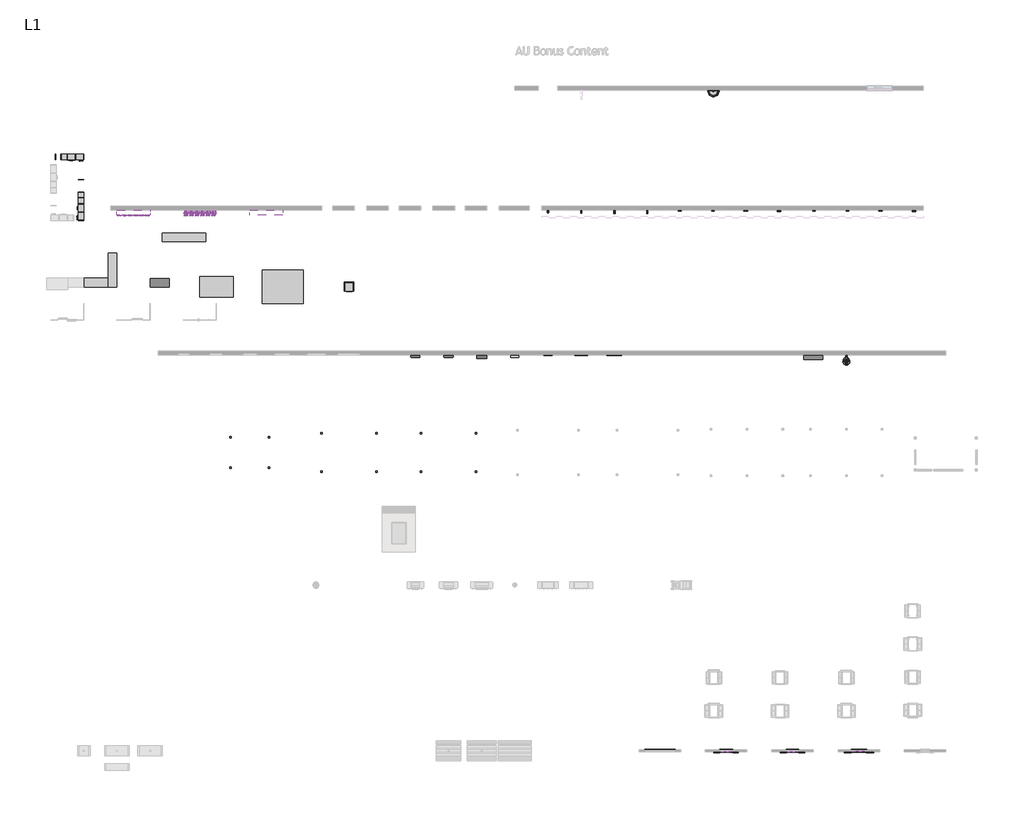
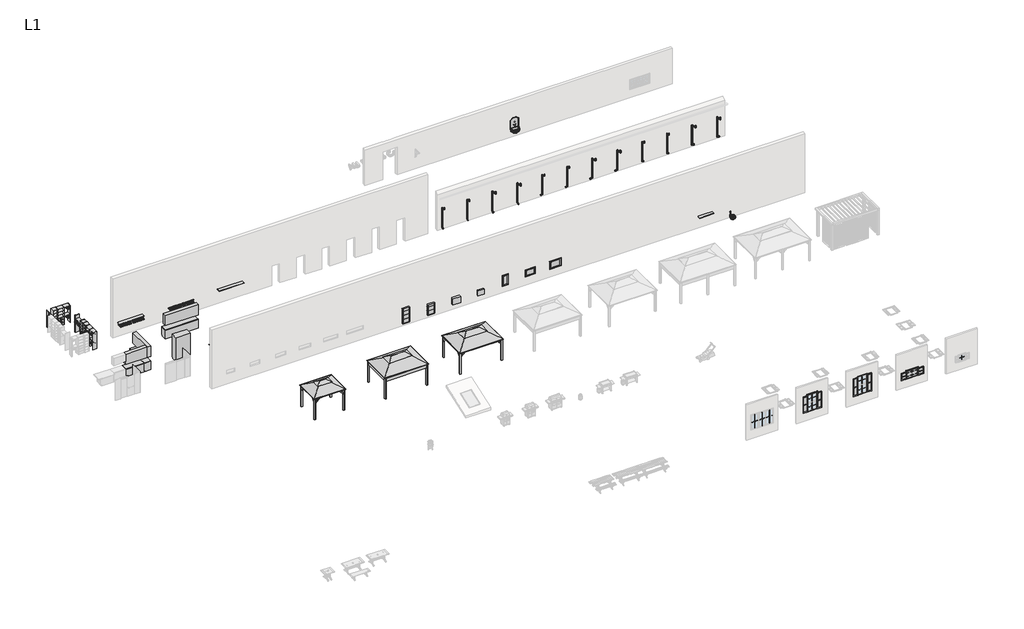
# One storey, part 2 of 3: 37 proxies, 16 furniture elements, 1 flow terminal.
"""IFC4 building model written with IfcOpenShell, lengths in millimetres."""

from ifc_helpers import new_model, si_unit, origin, place, context, project, spatial, faceted_brep, transform, mapped, element, save
from components import generic_models_d0a8d090, generic_models_df632028, generic_models_7251365c, proxy_2_bay_e269944b, proxy_3_bay_3be3d3e6, proxy_a602e200, proxy_0893bcb6, proxy_def5cd80, proxy_c430dda0, proxy_e1b6ae37, proxy_ede8fee1, proxy_e2340bb6, proxy_80003a3c, proxy_fda262e5, proxy_44de5c8c, proxy_8c5c01b0, proxy_bde930bf, large_9efaeace, medium_2074314f, muntin_pattern_2x1_muntin_pattern_2x2_a6c43cb1, muntin_pattern_2x1_muntin_pattern_2x2_6849e3ed, muntin_pattern_2x1_muntin_pattern_2x2_5a77f14e, muntin_pattern_2x1_muntin_pattern_2x2_0f8a5302, muntin_pattern_2x1_muntin_pattern_2x2_4837e2eb, muntin_pattern_2x1_muntin_pattern_2x2_8b241174, muntin_pattern_2x1_muntin_pattern_2x2_10bdea61, muntin_pattern_2x1_muntin_pattern_2x2_7469a3c2, muntin_pattern_2x1_muntin_pattern_2x2_3ec9c93b, shutters_trim_window_exterior_brick_mould_colonial_standard_93ad9e11, standard_04e2984d, standard_8dc5469e, trim_window_interior_flat1_picture_frame_fb6b3cf3, trim_window_interior_flat1_picture_frame_eabbbb4e, trim_window_interior_flat1_picture_frame_5102ef56, trim_window_interior_flat1_picture_frame_47f21718, wall_fountain_wall_fountain_90bc1599, flow_terminal_8df085c3, furniture_c30f7608, furniture_685e9397, furniture_1ed8da18, area_rug_5_x_8_81283b17, area_rug_8_x_10_95d52e00, closet_shelf_and_pole_rod_only_25dd0cd0, closet_shelf_and_pole_rod_only_98f2f419, closet_shelf_and_pole_rod_and_shelf_79c3418e, closet_shelf_and_pole_shelf_only_ceb32252, closet_system_one_to_five_bays_closet_system_one_to_five_99dbb15d, closet_system_one_to_five_bays_closet_system_one_to_five_d383a4f7, closet_system_one_to_five_bays_closet_system_one_to_five_3dc5d13a, closet_system_one_to_five_bays_closet_system_one_to_five_bbc15d21, furniture_e69bb2be, wall_frame_6613b714, wall_frame_b3d80cf9, wall_frame_70131e61

model = new_model("IFC4")

# Units and contexts
model_context = context("Model", 3, world=origin())
ifc_project = project(units=[si_unit("LENGTHUNIT", "METRE", prefix="MILLI")], contexts=[model_context])

# Site, building, storey
site = spatial("IfcSite", under=ifc_project)
building = spatial("IfcBuilding", under=site)
storey = spatial("IfcBuildingStorey", under=building, Name="L1", Elevation=0.0)

# Proxies
placement = place(None, origin())
generic_models_shape = generic_models_d0a8d090(model_context)
element("IfcBuildingElementProxy", 1, Name="Gazebo : 14'-0\" x 10'-0\" (Braces)", ObjectType="Gazebo : 14'-0\" x 10'-0\" (Braces)", at=placement, inside=storey, context=model_context, shape_type="MappedRepresentation", body=[
    mapped(generic_models_shape, transform((-3296.6137503, -3562.6647312, 0.0), x_axis=(1.0, 0.0, 0.0), y_axis=(0.0, 1.0, 0.0), z_axis=(0.0, 0.0, 1.0))),
])
generic_models_2_shape = generic_models_df632028(model_context)
element("IfcBuildingElementProxy", 2, Name="Gazebo : 10'-0\" x 8'-0\" (Braces)", ObjectType="Gazebo : 10'-0\" x 8'-0\" (Braces)", at=placement, inside=storey, context=model_context, shape_type="MappedRepresentation", body=[
    mapped(generic_models_2_shape, transform((-17927.0137503, -3562.6647312, 0.0), x_axis=(1.0, 0.0, 0.0), y_axis=(0.0, 1.0, 0.0), z_axis=(0.0, 0.0, 1.0))),
])
generic_models_3_shape = generic_models_7251365c(model_context)
element("IfcBuildingElementProxy", 3, Name="Gazebo : 14'-0\" x 10'-0\" (Arches)", ObjectType="Gazebo : 14'-0\" x 10'-0\" (Arches)", at=placement, inside=storey, context=model_context, shape_type="MappedRepresentation", body=[
    mapped(generic_models_3_shape, transform((-10611.8137503, -3562.6647312, 0.0), x_axis=(1.0, 0.0, 0.0), y_axis=(0.0, 1.0, 0.0), z_axis=(0.0, 0.0, 1.0))),
])
proxy_2_bay_shape = proxy_2_bay_e269944b(model_context)
element("IfcBuildingElementProxy", 4, Name="Whole House Battery : 2 Bay", ObjectType="Whole House Battery : 2 Bay", at=placement, inside=storey, context=model_context, shape_type="MappedRepresentation", body=[
    mapped(proxy_2_bay_shape, transform((-3296.6137503, 3515.0452688, 304.8), x_axis=(1.0, 0.0, 0.0), y_axis=(0.0, 1.0, 0.0), z_axis=(0.0, 0.0, 1.0))),
])
proxy_3_bay_shape = proxy_3_bay_3be3d3e6(model_context)
element("IfcBuildingElementProxy", 5, Name="Whole House Battery : 3 Bay", ObjectType="Whole House Battery : 3 Bay", at=placement, inside=storey, context=model_context, shape_type="MappedRepresentation", body=[
    mapped(proxy_3_bay_shape, transform((-5735.0137503, 3515.0452688, 304.8), x_axis=(1.0, 0.0, 0.0), y_axis=(0.0, 1.0, 0.0), z_axis=(0.0, 0.0, 1.0))),
])
proxy_shape = proxy_a602e200(model_context)
element("IfcBuildingElementProxy", 6, Name="Downspout - Left Discharge : 3\" x 2\" A", ObjectType="Downspout - Left Discharge : 3\" x 2\" A", at=placement, inside=storey, context=model_context, shape_type="MappedRepresentation", body=[
    mapped(proxy_shape, transform((13772.1862497, 14434.1781195, 12.267258), x_axis=(-1.0, 0.0, 0.0), y_axis=(0.0, -1.0, 0.0), z_axis=(0.0, 0.0, 1.0))),
])
proxy_2_shape = proxy_0893bcb6(model_context)
element("IfcBuildingElementProxy", 7, Name="Downspout - Left Discharge : 3\" x 2\" B", ObjectType="Downspout - Left Discharge : 3\" x 2\" B", at=placement, inside=storey, context=model_context, shape_type="MappedRepresentation", body=[
    mapped(proxy_2_shape, transform((16210.5862497, 14434.1781195, -12.1794905), x_axis=(-1.0, 0.0, 0.0), y_axis=(0.0, -1.0, 0.0), z_axis=(0.0, 0.0, 1.0))),
])
proxy_3_shape = proxy_def5cd80(model_context)
element("IfcBuildingElementProxy", 8, Name="Downspout - Left Discharge : 4\" x 3\" A", ObjectType="Downspout - Left Discharge : 4\" x 3\" A", at=placement, inside=storey, context=model_context, shape_type="MappedRepresentation", body=[
    mapped(proxy_3_shape, transform((18648.9862497, 14434.1781195, 12.3550255), x_axis=(-1.0, 0.0, 0.0), y_axis=(0.0, -1.0, 0.0), z_axis=(0.0, 0.0, 1.0))),
])
proxy_4_shape = proxy_c430dda0(model_context)
element("IfcBuildingElementProxy", 9, Name="Downspout - Left Discharge : 4\" x 3\" B", ObjectType="Downspout - Left Discharge : 4\" x 3\" B", at=placement, inside=storey, context=model_context, shape_type="MappedRepresentation", body=[
    mapped(proxy_4_shape, transform((21087.3862497, 14434.1781195, -12.1794905), x_axis=(-1.0, 0.0, 0.0), y_axis=(0.0, -1.0, 0.0), z_axis=(0.0, 0.0, 1.0))),
])
proxy_5_shape = proxy_e1b6ae37(model_context)
element("IfcBuildingElementProxy", 10, Name="Downspout - Right Discharge : 3\" x 2\" A", ObjectType="Downspout - Right Discharge : 3\" x 2\" A", at=placement, inside=storey, context=model_context, shape_type="MappedRepresentation", body=[
    mapped(proxy_5_shape, transform((23525.7862497, 14434.1781195, 12.267258), x_axis=(-1.0, 0.0, 0.0), y_axis=(0.0, -1.0, 0.0), z_axis=(0.0, 0.0, 1.0))),
])
proxy_6_shape = proxy_ede8fee1(model_context)
element("IfcBuildingElementProxy", 11, Name="Downspout - Right Discharge : 3\" x 2\" B", ObjectType="Downspout - Right Discharge : 3\" x 2\" B", at=placement, inside=storey, context=model_context, shape_type="MappedRepresentation", body=[
    mapped(proxy_6_shape, transform((25964.1862497, 14434.1781195, -12.1794905), x_axis=(-1.0, 0.0, 0.0), y_axis=(0.0, -1.0, 0.0), z_axis=(0.0, 0.0, 1.0))),
])
proxy_7_shape = proxy_e2340bb6(model_context)
element("IfcBuildingElementProxy", 12, Name="Downspout - Right Discharge : 4\" x 3\" A", ObjectType="Downspout - Right Discharge : 4\" x 3\" A", at=placement, inside=storey, context=model_context, shape_type="MappedRepresentation", body=[
    mapped(proxy_7_shape, transform((28402.5862497, 14434.1781195, 12.3550255), x_axis=(-1.0, 0.0, 0.0), y_axis=(0.0, -1.0, 0.0), z_axis=(0.0, 0.0, 1.0))),
])
proxy_8_shape = proxy_80003a3c(model_context)
element("IfcBuildingElementProxy", 13, Name="Downspout - Right Discharge : 4\" x 3\" B", ObjectType="Downspout - Right Discharge : 4\" x 3\" B", at=placement, inside=storey, context=model_context, shape_type="MappedRepresentation", body=[
    mapped(proxy_8_shape, transform((30840.9862497, 14434.1781195, -12.1794905), x_axis=(-1.0, 0.0, 0.0), y_axis=(0.0, -1.0, 0.0), z_axis=(0.0, 0.0, 1.0))),
])
proxy_9_shape = proxy_fda262e5(model_context)
element("IfcBuildingElementProxy", 14, Name="Downspout - Straight Discharge : 3\" x 2\" A", ObjectType="Downspout - Straight Discharge : 3\" x 2\" A", at=placement, inside=storey, context=model_context, shape_type="MappedRepresentation", body=[
    mapped(proxy_9_shape, transform((4018.5862497, 14434.1781195, 0.0), x_axis=(-1.0, 0.0, 0.0), y_axis=(0.0, -1.0, 0.0), z_axis=(0.0, 0.0, 1.0))),
])
proxy_10_shape = proxy_44de5c8c(model_context)
element("IfcBuildingElementProxy", 15, Name="Downspout - Straight Discharge : 3\" x 2\" B", ObjectType="Downspout - Straight Discharge : 3\" x 2\" B", at=placement, inside=storey, context=model_context, shape_type="MappedRepresentation", body=[
    mapped(proxy_10_shape, transform((6456.9862497, 14434.1781195, 0.0877675), x_axis=(-1.0, 0.0, 0.0), y_axis=(0.0, -1.0, 0.0), z_axis=(0.0, 0.0, 1.0))),
])
proxy_11_shape = proxy_8c5c01b0(model_context)
element("IfcBuildingElementProxy", 16, Name="Downspout - Straight Discharge : 4\" x 3\" A", ObjectType="Downspout - Straight Discharge : 4\" x 3\" A", at=placement, inside=storey, context=model_context, shape_type="MappedRepresentation", body=[
    mapped(proxy_11_shape, transform((8895.3862497, 14434.1781195, 0.0877675), x_axis=(-1.0, 0.0, 0.0), y_axis=(0.0, -1.0, 0.0), z_axis=(0.0, 0.0, 1.0))),
])
proxy_12_shape = proxy_bde930bf(model_context)
element("IfcBuildingElementProxy", 17, Name="Downspout - Straight Discharge : 4\" x 3\" B", ObjectType="Downspout - Straight Discharge : 4\" x 3\" B", at=placement, inside=storey, context=model_context, shape_type="MappedRepresentation", body=[
    mapped(proxy_12_shape, transform((11333.7862497, 14434.1781195, 0.0877675), x_axis=(-1.0, 0.0, 0.0), y_axis=(0.0, -1.0, 0.0), z_axis=(0.0, 0.0, 1.0))),
])
large_shape = large_9efaeace(model_context)
element("IfcBuildingElementProxy", 18, Name="Power Inverter : Large", ObjectType="Power Inverter : Large", at=placement, inside=storey, context=model_context, shape_type="MappedRepresentation", body=[
    mapped(large_shape, transform((-858.2137503, 3473.1352688, 609.6), x_axis=(1.0, 0.0, 0.0), y_axis=(0.0, 1.0, 0.0), z_axis=(0.0, 0.0, 1.0))),
])
medium_shape = medium_2074314f(model_context)
element("IfcBuildingElementProxy", 19, Name="Power Inverter : Medium", ObjectType="Power Inverter : Medium", at=placement, inside=storey, context=model_context, shape_type="MappedRepresentation", body=[
    mapped(medium_shape, transform((1580.1862497, 3523.9352688, 609.6), x_axis=(1.0, 0.0, 0.0), y_axis=(0.0, 1.0, 0.0), z_axis=(0.0, 0.0, 1.0))),
])
muntin_pattern_2x1_muntin_pattern_2x2_shape = muntin_pattern_2x1_muntin_pattern_2x2_a6c43cb1(model_context)
element("IfcBuildingElementProxy", 20, Name="Muntin Pattern_2x1 : Muntin Pattern_2x2", ObjectType="Muntin Pattern_2x1 : Muntin Pattern_2x2", at=placement, inside=storey, context=model_context, shape_type="MappedRepresentation", body=[
    mapped(muntin_pattern_2x1_muntin_pattern_2x2_shape, transform((12965.7362497, -25562.2397312, 984.25), x_axis=(-1.0, 0.0, 0.0), y_axis=(0.0, -1.0, 0.0), z_axis=(0.0, 0.0, 1.0))),
])
element("IfcBuildingElementProxy", 21, Name="Muntin Pattern_2x1 : Muntin Pattern_2x2", ObjectType="Muntin Pattern_2x1 : Muntin Pattern_2x2", at=placement, inside=storey, context=model_context, shape_type="MappedRepresentation", body=[
    mapped(muntin_pattern_2x1_muntin_pattern_2x2_shape, transform((12248.1862497, -25562.2397312, 984.25), x_axis=(-1.0, 0.0, 0.0), y_axis=(0.0, -1.0, 0.0), z_axis=(0.0, 0.0, 1.0))),
])
muntin_pattern_2x1_muntin_pattern_2x2_2_shape = muntin_pattern_2x1_muntin_pattern_2x2_6849e3ed(model_context)
element("IfcBuildingElementProxy", 22, Name="Muntin Pattern_2x1 : Muntin Pattern_2x2", ObjectType="Muntin Pattern_2x1 : Muntin Pattern_2x2", at=placement, inside=storey, context=model_context, shape_type="MappedRepresentation", body=[
    mapped(muntin_pattern_2x1_muntin_pattern_2x2_2_shape, transform((11530.6362497, -25562.2397312, 984.25), x_axis=(1.0, 0.0, 0.0), y_axis=(0.0, 1.0, 0.0), z_axis=(0.0, 0.0, 1.0))),
])
muntin_pattern_2x1_muntin_pattern_2x2_3_shape = muntin_pattern_2x1_muntin_pattern_2x2_5a77f14e(model_context)
element("IfcBuildingElementProxy", 23, Name="Muntin Pattern_2x1 : Muntin Pattern_2x2", ObjectType="Muntin Pattern_2x1 : Muntin Pattern_2x2", at=placement, inside=storey, context=model_context, shape_type="MappedRepresentation", body=[
    mapped(muntin_pattern_2x1_muntin_pattern_2x2_3_shape, transform((17124.9862497, -25562.2397312, 1809.75), x_axis=(1.0, 0.0, 0.0), y_axis=(0.0, 1.0, 0.0), z_axis=(0.0, 0.0, 1.0))),
])
muntin_pattern_2x1_muntin_pattern_2x2_4_shape = muntin_pattern_2x1_muntin_pattern_2x2_0f8a5302(model_context)
element("IfcBuildingElementProxy", 24, Name="Muntin Pattern_2x1 : Muntin Pattern_2x2", ObjectType="Muntin Pattern_2x1 : Muntin Pattern_2x2", at=placement, inside=storey, context=model_context, shape_type="MappedRepresentation", body=[
    mapped(muntin_pattern_2x1_muntin_pattern_2x2_4_shape, transform((17124.9862497, -25562.2397312, 984.25), x_axis=(1.0, 0.0, 0.0), y_axis=(0.0, 1.0, 0.0), z_axis=(0.0, 0.0, 1.0))),
])
muntin_pattern_2x1_muntin_pattern_2x2_5_shape = muntin_pattern_2x1_muntin_pattern_2x2_4837e2eb(model_context)
element("IfcBuildingElementProxy", 25, Name="Muntin Pattern_2x1 : Muntin Pattern_2x2", ObjectType="Muntin Pattern_2x1 : Muntin Pattern_2x2", at=placement, inside=storey, context=model_context, shape_type="MappedRepresentation", body=[
    mapped(muntin_pattern_2x1_muntin_pattern_2x2_5_shape, transform((22001.7862497, -25562.2397312, 1898.65), x_axis=(1.0, 0.0, 0.0), y_axis=(0.0, 1.0, 0.0), z_axis=(0.0, 0.0, 1.0))),
])
muntin_pattern_2x1_muntin_pattern_2x2_6_shape = muntin_pattern_2x1_muntin_pattern_2x2_8b241174(model_context)
element("IfcBuildingElementProxy", 26, Name="Muntin Pattern_2x1 : Muntin Pattern_2x2", ObjectType="Muntin Pattern_2x1 : Muntin Pattern_2x2", at=placement, inside=storey, context=model_context, shape_type="MappedRepresentation", body=[
    mapped(muntin_pattern_2x1_muntin_pattern_2x2_6_shape, transform((22001.7862497, -25562.2397312, 984.25), x_axis=(1.0, 0.0, 0.0), y_axis=(0.0, 1.0, 0.0), z_axis=(0.0, 0.0, 1.0))),
])
muntin_pattern_2x1_muntin_pattern_2x2_7_shape = muntin_pattern_2x1_muntin_pattern_2x2_10bdea61(model_context)
element("IfcBuildingElementProxy", 27, Name="Muntin Pattern_2x1 : Muntin Pattern_2x2", ObjectType="Muntin Pattern_2x1 : Muntin Pattern_2x2", at=placement, inside=storey, context=model_context, shape_type="MappedRepresentation", body=[
    mapped(muntin_pattern_2x1_muntin_pattern_2x2_7_shape, transform((26878.5862497, -25562.2397312, 1352.55), x_axis=(1.0, 0.0, 0.0), y_axis=(0.0, 1.0, 0.0), z_axis=(0.0, 0.0, 1.0))),
])
muntin_pattern_2x1_muntin_pattern_2x2_8_shape = muntin_pattern_2x1_muntin_pattern_2x2_7469a3c2(model_context)
element("IfcBuildingElementProxy", 28, Name="Muntin Pattern_2x1 : Muntin Pattern_2x2", ObjectType="Muntin Pattern_2x1 : Muntin Pattern_2x2", at=placement, inside=storey, context=model_context, shape_type="MappedRepresentation", body=[
    mapped(muntin_pattern_2x1_muntin_pattern_2x2_8_shape, transform((26878.5862497, -25562.2397312, 984.25), x_axis=(1.0, 0.0, 0.0), y_axis=(0.0, 1.0, 0.0), z_axis=(0.0, 0.0, 1.0))),
])
muntin_pattern_2x1_muntin_pattern_2x2_9_shape = muntin_pattern_2x1_muntin_pattern_2x2_3ec9c93b(model_context)
element("IfcBuildingElementProxy", 29, Name="Muntin Pattern_2x1 : Muntin Pattern_2x2", ObjectType="Muntin Pattern_2x1 : Muntin Pattern_2x2", at=placement, inside=storey, context=model_context, shape_type="MappedRepresentation", body=[
    mapped(muntin_pattern_2x1_muntin_pattern_2x2_9_shape, transform((31755.3862497, -25562.2397312, 984.25), x_axis=(1.0, 0.0, 0.0), y_axis=(0.0, 1.0, 0.0), z_axis=(0.0, 0.0, 1.0))),
])
shutters_trim_window_exterior_brick_mould_colonial_standard_shape = shutters_trim_window_exterior_brick_mould_colonial_standard_93ad9e11(model_context)
element("IfcBuildingElementProxy", 30, Name="Shutters-Trim-Window-Exterior-Brick_Mould-Colonial : Standard", ObjectType="Shutters-Trim-Window-Exterior-Brick_Mould-Colonial : Standard", at=placement, inside=storey, context=model_context, shape_type="MappedRepresentation", body=[
    mapped(shutters_trim_window_exterior_brick_mould_colonial_standard_shape, transform((22001.7862497, -25571.7647312, 2743.2), x_axis=(-1.0, 0.0, 0.0), y_axis=(0.0, 0.0, -1.0), z_axis=(0.0, -1.0, 0.0))),
])
standard_shape = standard_04e2984d(model_context)
element("IfcBuildingElementProxy", 31, Name="Shutters-Trim-Window-Exterior-Flat-Backband-Colonial : Standard", ObjectType="Shutters-Trim-Window-Exterior-Flat-Backband-Colonial : Standard", at=placement, inside=storey, context=model_context, shape_type="MappedRepresentation", body=[
    mapped(standard_shape, transform((17124.9862497, -25571.7647312, 2565.4), x_axis=(-1.0, 0.0, 0.0), y_axis=(0.0, 0.0, -1.0), z_axis=(0.0, -1.0, 0.0))),
])
standard_2_shape = standard_8dc5469e(model_context)
element("IfcBuildingElementProxy", 32, Name="Shutters-Trim-Window-Exterior-Flat-Decorative_Drip_Cap-Cape_Cod : Standard", ObjectType="Shutters-Trim-Window-Exterior-Flat-Decorative_Drip_Cap-Cape_Cod : Standard", at=placement, inside=storey, context=model_context, shape_type="MappedRepresentation", body=[
    mapped(standard_2_shape, transform((26878.5862497, -25571.7647312, 1651.0), x_axis=(-1.0, 0.0, 0.0), y_axis=(0.0, 0.0, -1.0), z_axis=(0.0, -1.0, 0.0))),
])
trim_window_interior_flat1_picture_frame_shape = trim_window_interior_flat1_picture_frame_fb6b3cf3(model_context)
element("IfcBuildingElementProxy", 33, Name="Trim-Window-Interior-Flat1 : Picture Frame", ObjectType="Trim-Window-Interior-Flat1 : Picture Frame", at=placement, inside=storey, context=model_context, shape_type="MappedRepresentation", body=[
    mapped(trim_window_interior_flat1_picture_frame_shape, transform((12248.1862497, -25444.7647312, 2438.4), x_axis=(1.0, 0.0, 0.0), y_axis=(0.0, 0.0, -1.0), z_axis=(0.0, 1.0, 0.0))),
])
trim_window_interior_flat1_picture_frame_2_shape = trim_window_interior_flat1_picture_frame_eabbbb4e(model_context)
element("IfcBuildingElementProxy", 34, Name="Trim-Window-Interior-Flat1 : Picture Frame", ObjectType="Trim-Window-Interior-Flat1 : Picture Frame", at=placement, inside=storey, context=model_context, shape_type="MappedRepresentation", body=[
    mapped(trim_window_interior_flat1_picture_frame_2_shape, transform((17124.9862497, -25444.7647312, 2565.4), x_axis=(1.0, 0.0, 0.0), y_axis=(0.0, 0.0, -1.0), z_axis=(0.0, 1.0, 0.0))),
])
trim_window_interior_flat1_picture_frame_3_shape = trim_window_interior_flat1_picture_frame_5102ef56(model_context)
element("IfcBuildingElementProxy", 35, Name="Trim-Window-Interior-Flat1 : Picture Frame", ObjectType="Trim-Window-Interior-Flat1 : Picture Frame", at=placement, inside=storey, context=model_context, shape_type="MappedRepresentation", body=[
    mapped(trim_window_interior_flat1_picture_frame_3_shape, transform((22001.7862497, -25444.7647312, 2743.2), x_axis=(1.0, 0.0, 0.0), y_axis=(0.0, 0.0, -1.0), z_axis=(0.0, 1.0, 0.0))),
])
trim_window_interior_flat1_picture_frame_4_shape = trim_window_interior_flat1_picture_frame_47f21718(model_context)
element("IfcBuildingElementProxy", 36, Name="Trim-Window-Interior-Flat1 : Picture Frame", ObjectType="Trim-Window-Interior-Flat1 : Picture Frame", at=placement, inside=storey, context=model_context, shape_type="MappedRepresentation", body=[
    mapped(trim_window_interior_flat1_picture_frame_4_shape, transform((26878.5862497, -25444.7647312, 1651.0), x_axis=(1.0, 0.0, 0.0), y_axis=(0.0, 0.0, -1.0), z_axis=(0.0, 1.0, 0.0))),
])
wall_fountain_wall_fountain_shape = wall_fountain_wall_fountain_90bc1599(model_context)
element("IfcBuildingElementProxy", 37, Name="Wall Fountain : Wall Fountain", ObjectType="Wall Fountain : Wall Fountain", at=placement, inside=storey, context=model_context, shape_type="MappedRepresentation", body=[
    mapped(wall_fountain_wall_fountain_shape, transform((16185.1862497, 23259.7352688, 0.0), x_axis=(-1.0, 0.0, 0.0), y_axis=(0.0, -1.0, 0.0), z_axis=(0.0, 0.0, 1.0))),
])

# Flow terminal
flow_terminal_shape = flow_terminal_8df085c3(model_context)
element("IfcFlowTerminal", 38, ObjectType="Toilet-Commercial-Wall-3D : 15\" Seat Height", at=placement, inside=storey, context=model_context, shape_type="MappedRepresentation", body=[
    mapped(flow_terminal_shape, transform((26369.0894035, 3752.5352688, 0.0), x_axis=(-1.0, 0.0, 0.0), y_axis=(0.0, -1.0, 0.0), z_axis=(0.0, 0.0, 1.0))),
])

# Furniture
element("IfcFurniture", 39, ObjectType="Casework Schematic - Base and Upper : Casework Schematic - Base and Upper", at=placement, inside=storey, context=model_context, shape_type="Brep", body=[
    faceted_brep([(-27680.6137503, 8629.3352688, 876.3), (-27693.3137503, 8629.3352688, 876.3), (-28290.2137503, 8629.3352688, 876.3), (-28315.6137503, 8629.3352688, 876.3), (-28315.6137503, 8642.0352688, 876.3), (-28315.6137503, 8667.4352688, 876.3), (-28315.6137503, 9264.3352688, 876.3), (-28315.6137503, 11067.7352688, 876.3), (-27693.3137503, 11067.7352688, 876.3), (-27680.6137503, 11067.7352688, 876.3), (-27680.6137503, 8667.4352688, 876.3), (-27680.6137503, 8642.0352688, 876.3), (-28315.6137503, 8629.3352688, 914.4), (-27693.3137503, 8629.3352688, 914.4), (-27680.6137503, 8629.3352688, 914.4), (-27680.6137503, 8642.0352688, 914.4), (-27680.6137503, 11105.8352688, 914.4), (-27693.3137503, 11105.8352688, 914.4), (-28315.6137503, 11105.8352688, 914.4), (-28315.6137503, 9264.3352688, 914.4), (-28315.6137503, 8642.0352688, 914.4), (-28315.6137503, 11105.8352688, 0.0), (-28315.6137503, 11067.7352688, 0.0), (-28315.6137503, 8629.3352688, 889.0), (-27680.6137503, 8629.3352688, 889.0), (-27680.6137503, 11067.7352688, 0.0), (-27680.6137503, 11105.8352688, 0.0), (-27680.6137503, 11105.8352688, 876.3)], [[[0, 1, 2, 3, 4, 5, 6, 7, 8, 9, 10, 11]], [[12, 13, 14, 15, 16, 17, 18, 19, 20]], [[21, 22, 7, 6, 5, 4, 3, 23, 12, 20, 19, 18]], [[1, 0, 24, 14, 13, 12, 23, 3, 2]], [[25, 26, 27, 16, 15, 14, 24, 0, 11, 10, 9]], [[26, 21, 18, 17, 16, 27]], [[21, 26, 25, 22]], [[22, 25, 9, 8, 7]]]),
    faceted_brep([(-27680.6137503, 8629.3352688, 876.3), (-28290.2137503, 8629.3352688, 876.3), (-28290.2137503, 8629.3352688, 101.6), (-28201.3137503, 8629.3352688, 101.6), (-28201.3137503, 8629.3352688, 0.0), (-27680.6137503, 8629.3352688, 0.0), (-27680.6137503, 11067.7352688, 876.3), (-27680.6137503, 11067.7352688, 0.0), (-28201.3137503, 11067.7352688, 0.0), (-28201.3137503, 11067.7352688, 101.6), (-28290.2137503, 11067.7352688, 101.6), (-28290.2137503, 11067.7352688, 876.3), (-28290.2137503, 9238.9352688, 876.3), (-28290.2137503, 9238.9352688, 101.6), (-28290.2137503, 9150.0352688, 101.6), (-28201.3137503, 9150.0352688, 101.6), (-28201.3137503, 9150.0352688, 0.0)], [[[0, 1, 2, 3, 4, 5]], [[6, 7, 8, 9, 10, 11]], [[2, 1, 12, 11, 10, 13, 14]], [[3, 2, 14, 13, 10, 9, 15]], [[4, 3, 15, 9, 8, 16]], [[5, 4, 16, 8, 7]], [[0, 5, 7, 6]], [[1, 0, 6, 11, 12]]]),
    faceted_brep([(-28010.8137503, 8629.3352688, 2438.4), (-28010.8137503, 8629.3352688, 1371.6), (-27680.6137503, 8629.3352688, 1371.6), (-27680.6137503, 8629.3352688, 2438.4), (-28010.8137503, 8959.5352688, 2438.4), (-28010.8137503, 11067.7352688, 2438.4), (-28010.8137503, 11067.7352688, 1371.6), (-28010.8137503, 8959.5352688, 1371.6), (-27680.6137503, 11067.7352688, 1371.6), (-27680.6137503, 11067.7352688, 2438.4)], [[[0, 1, 2, 3]], [[1, 0, 4, 5, 6, 7]], [[3, 2, 8, 9]], [[0, 3, 9, 5, 4]], [[5, 9, 8, 6]], [[2, 1, 7, 6, 8]]]),
])
element("IfcFurniture", 40, ObjectType="Casework Schematic - Base and Upper : Casework Schematic - Base and Upper", at=placement, inside=storey, context=model_context, shape_type="Brep", body=[
    faceted_brep([(-30080.9137503, 8629.3352688, 876.3), (-30106.3137503, 8629.3352688, 876.3), (-30119.0137503, 8629.3352688, 876.3), (-30119.0137503, 8642.0352688, 876.3), (-30119.0137503, 9264.3352688, 876.3), (-30106.3137503, 9264.3352688, 876.3), (-30080.9137503, 9264.3352688, 876.3), (-28315.6137503, 9264.3352688, 876.3), (-28315.6137503, 8667.4352688, 876.3), (-28315.6137503, 8642.0352688, 876.3), (-28315.6137503, 8629.3352688, 876.3), (-30106.3137503, 9264.3352688, 914.4), (-30119.0137503, 9264.3352688, 914.4), (-30119.0137503, 8642.0352688, 914.4), (-30119.0137503, 8629.3352688, 914.4), (-30106.3137503, 8629.3352688, 914.4), (-28315.6137503, 8629.3352688, 914.4), (-28315.6137503, 8642.0352688, 914.4), (-28315.6137503, 9264.3352688, 914.4), (-30119.0137503, 9264.3352688, 889.0), (-30119.0137503, 8629.3352688, 889.0), (-28315.6137503, 8629.3352688, 889.0)], [[[0, 1, 2, 3, 4, 5, 6, 7, 8, 9, 10]], [[11, 12, 13, 14, 15, 16, 17, 18]], [[5, 4, 19, 12, 11, 18, 7, 6]], [[3, 2, 20, 14, 13, 12, 19, 4]], [[1, 0, 10, 21, 16, 15, 14, 20, 2]], [[10, 9, 8, 7, 18, 17, 16, 21]]]),
    faceted_brep([(-30119.0137503, 8629.3352688, 876.3), (-30119.0137503, 9238.9352688, 876.3), (-30119.0137503, 9238.9352688, 101.6), (-30119.0137503, 9150.0352688, 101.6), (-30119.0137503, 9150.0352688, 0.0), (-30119.0137503, 8629.3352688, 0.0), (-28315.6137503, 9238.9352688, 876.3), (-28290.2137503, 9238.9352688, 876.3), (-28290.2137503, 9238.9352688, 101.6), (-28290.2137503, 9150.0352688, 101.6), (-28201.3137503, 9150.0352688, 101.6), (-28201.3137503, 9150.0352688, 0.0), (-28201.3137503, 8629.3352688, 0.0), (-28201.3137503, 8629.3352688, 101.6), (-28290.2137503, 8629.3352688, 101.6), (-28290.2137503, 8629.3352688, 876.3), (-28315.6137503, 8629.3352688, 876.3)], [[[0, 1, 2, 3, 4, 5]], [[2, 1, 6, 7, 8]], [[3, 2, 8, 9]], [[4, 3, 9, 10, 11]], [[5, 4, 11, 12]], [[0, 5, 12, 13, 14, 15, 16]], [[1, 0, 16, 15, 7, 6]], [[14, 9, 8, 7, 15]], [[9, 14, 13, 10]], [[10, 13, 12, 11]]]),
    faceted_brep([(-30119.0137503, 8959.5352688, 2438.4), (-30119.0137503, 8959.5352688, 1676.4), (-30119.0137503, 8959.5352688, 1371.6), (-30119.0137503, 8629.3352688, 1371.6), (-30119.0137503, 8629.3352688, 1676.4), (-30119.0137503, 8629.3352688, 2438.4), (-28010.8137503, 8959.5352688, 2438.4), (-28010.8137503, 8959.5352688, 1371.6), (-28010.8137503, 8629.3352688, 1371.6), (-28010.8137503, 8629.3352688, 2438.4)], [[[0, 1, 2, 3, 4, 5]], [[2, 1, 0, 6, 7]], [[5, 4, 3, 8, 9]], [[0, 5, 9, 6]], [[3, 2, 7, 8]], [[7, 6, 9, 8]]]),
])
furniture_shape = furniture_c30f7608(model_context)
element("IfcFurniture", 41, ObjectType="Directors Chair : Directors Chair", at=placement, inside=storey, context=model_context, shape_type="MappedRepresentation", body=[
    mapped(furniture_shape, transform((-10611.8137503, 8629.3352688, 0.0), x_axis=(1.0, 0.0, 0.0), y_axis=(0.0, 1.0, 0.0), z_axis=(0.0, 0.0, 1.0))),
])
furniture_2_shape = furniture_685e9397(model_context)
element("IfcFurniture", 42, ObjectType="Casework Schematic - Tall : Casework Schematic - Tall", at=placement, inside=storey, context=model_context, shape_type="MappedRepresentation", body=[
    mapped(furniture_2_shape, transform((-25242.2137503, 8629.3352688, 0.0), x_axis=(1.0, 0.0, 0.0), y_axis=(0.0, 1.0, 0.0), z_axis=(0.0, 0.0, 1.0))),
])
furniture_3_shape = furniture_1ed8da18(model_context)
element("IfcFurniture", 43, ObjectType="Casework Schematic - Base and Upper : Casework Schematic - Base and Upper", at=placement, inside=storey, context=model_context, shape_type="MappedRepresentation", body=[
    mapped(furniture_3_shape, transform((-24348.2396303, 11944.7550938, 0.0), x_axis=(1.0, 0.0, 0.0), y_axis=(0.0, 1.0, 0.0), z_axis=(0.0, 0.0, 1.0))),
])
area_rug_5_x_8_shape = area_rug_5_x_8_81283b17(model_context)
element("IfcFurniture", 44, ObjectType="Area Rug : 5 x 8", at=placement, inside=storey, context=model_context, shape_type="MappedRepresentation", body=[
    mapped(area_rug_5_x_8_shape, transform((-20365.4137503, 8629.3352688, 0.0), x_axis=(1.0, 0.0, 0.0), y_axis=(0.0, 1.0, 0.0), z_axis=(0.0, 0.0, 1.0))),
])
area_rug_8_x_10_shape = area_rug_8_x_10_95d52e00(model_context)
element("IfcFurniture", 45, ObjectType="Area Rug : 8 x 10", at=placement, inside=storey, context=model_context, shape_type="MappedRepresentation", body=[
    mapped(area_rug_8_x_10_shape, transform((-15488.6137503, 8629.3352688, 0.0), x_axis=(1.0, 0.0, 0.0), y_axis=(0.0, 1.0, 0.0), z_axis=(0.0, 0.0, 1.0))),
])
closet_shelf_and_pole_rod_only_shape = closet_shelf_and_pole_rod_only_25dd0cd0(model_context)
closet_shelf_and_pole_rod_only_2_shape = closet_shelf_and_pole_rod_only_98f2f419(model_context)
element("IfcFurniture", 46, ObjectType="Closet Shelf and Pole : Rod Only", at=placement, inside=storey, context=model_context, shape_type="MappedRepresentation", body=[
    mapped(closet_shelf_and_pole_rod_only_shape, transform((-22803.8137503, 14281.7781195, 0.0), x_axis=(1.0, 0.0, 0.0), y_axis=(0.0, 1.0, 0.0), z_axis=(0.0, 0.0, 1.0))),
    mapped(closet_shelf_and_pole_rod_only_2_shape, transform((-22803.8137503, 14281.7781195, 0.0), x_axis=(1.0, 0.0, 0.0), y_axis=(0.0, 1.0, 0.0), z_axis=(0.0, 0.0, 1.0))),
])
closet_shelf_and_pole_rod_and_shelf_shape = closet_shelf_and_pole_rod_and_shelf_79c3418e(model_context)
element("IfcFurniture", 47, ObjectType="Closet Shelf and Pole : Rod and Shelf", at=placement, inside=storey, context=model_context, shape_type="MappedRepresentation", body=[
    mapped(closet_shelf_and_pole_rod_only_shape, transform((-27680.6137503, 14281.7781195, 0.0), x_axis=(1.0, 0.0, 0.0), y_axis=(0.0, 1.0, 0.0), z_axis=(0.0, 0.0, 1.0))),
    mapped(closet_shelf_and_pole_rod_and_shelf_shape, transform((-27680.6137503, 14281.7781195, 0.0), x_axis=(1.0, 0.0, 0.0), y_axis=(0.0, 1.0, 0.0), z_axis=(0.0, 0.0, 1.0))),
])
closet_shelf_and_pole_shelf_only_shape = closet_shelf_and_pole_shelf_only_ceb32252(model_context)
element("IfcFurniture", 48, ObjectType="Closet Shelf and Pole : Shelf Only", at=placement, inside=storey, context=model_context, shape_type="MappedRepresentation", body=[
    mapped(closet_shelf_and_pole_shelf_only_shape, transform((-17927.0137503, 14281.7781195, 0.0), x_axis=(1.0, 0.0, 0.0), y_axis=(0.0, 1.0, 0.0), z_axis=(0.0, 0.0, 1.0))),
])
closet_system_one_to_five_bays_closet_system_one_to_five_shape = closet_system_one_to_five_bays_closet_system_one_to_five_99dbb15d(model_context)
closet_system_one_to_five_bays_closet_system_one_to_five_2_shape = closet_system_one_to_five_bays_closet_system_one_to_five_d383a4f7(model_context)
element("IfcFurniture", 49, ObjectType="Closet System (One to Five Bays) : Closet System (One to Five Bays)", at=placement, inside=storey, context=model_context, shape_type="MappedRepresentation", body=[
    mapped(closet_system_one_to_five_bays_closet_system_one_to_five_shape, transform((-30119.0137503, 18382.9352688, 0.0), x_axis=(-1.0, 0.0, 0.0), y_axis=(0.0, -1.0, 0.0), z_axis=(0.0, 0.0, 1.0))),
    mapped(closet_system_one_to_five_bays_closet_system_one_to_five_2_shape, transform((-30119.0137503, 18382.9352688, 0.0), x_axis=(-1.0, 0.0, 0.0), y_axis=(0.0, -1.0, 0.0), z_axis=(0.0, 0.0, 1.0))),
])
closet_system_one_to_five_bays_closet_system_one_to_five_3_shape = closet_system_one_to_five_bays_closet_system_one_to_five_3dc5d13a(model_context)
closet_system_one_to_five_bays_closet_system_one_to_five_4_shape = closet_system_one_to_five_bays_closet_system_one_to_five_bbc15d21(model_context)
element("IfcFurniture", 50, ObjectType="Closet System (One to Five Bays) : Closet System (One to Five Bays)", at=placement, inside=storey, context=model_context, shape_type="MappedRepresentation", body=[
    mapped(closet_system_one_to_five_bays_closet_system_one_to_five_3_shape, transform((-30119.0137503, 13506.1352688, 0.0), x_axis=(0.0, 1.0, 0.0), y_axis=(-1.0, 0.0, 0.0), z_axis=(0.0, 0.0, 1.0))),
    mapped(closet_system_one_to_five_bays_closet_system_one_to_five_4_shape, transform((-30119.0137503, 13506.1352688, 0.0), x_axis=(0.0, 1.0, 0.0), y_axis=(-1.0, 0.0, 0.0), z_axis=(0.0, 0.0, 1.0))),
])
furniture_4_shape = furniture_e69bb2be(model_context)
element("IfcFurniture", 51, ObjectType="Single Shelf - Not Hosted : 4'-6\" (Flush Edge)", at=placement, inside=storey, context=model_context, shape_type="MappedRepresentation", body=[
    mapped(furniture_4_shape, transform((23544.5239546, 2990.5352688, 0.0), x_axis=(-1.0, 0.0, 0.0), y_axis=(0.0, -1.0, 0.0), z_axis=(0.0, 0.0, 1.0))),
])
wall_frame_shape = wall_frame_6613b714(model_context)
element("IfcFurniture", 52, ObjectType="Wall Frame : 3'-8\"W x 2'-8\"H (Mirror)", at=placement, inside=storey, context=model_context, shape_type="MappedRepresentation", body=[
    mapped(wall_frame_shape, transform((8895.3862497, 3600.1352688, 1219.2), x_axis=(1.0, 0.0, 0.0), y_axis=(0.0, 0.0, 1.0), z_axis=(0.0, -1.0, 0.0))),
])
wall_frame_2_shape = wall_frame_b3d80cf9(model_context)
element("IfcFurniture", 53, ObjectType="Wall Frame : 2'-0\"W x 3'-8\"H (Mirror)", at=placement, inside=storey, context=model_context, shape_type="MappedRepresentation", body=[
    mapped(wall_frame_2_shape, transform((4018.5862497, 3600.1352688, 1219.2), x_axis=(1.0, 0.0, 0.0), y_axis=(0.0, 0.0, 1.0), z_axis=(0.0, -1.0, 0.0))),
])
wall_frame_3_shape = wall_frame_70131e61(model_context)
element("IfcFurniture", 54, ObjectType="Wall Frame : 3'-2\"W x 2'-4\"H (Painting)", at=placement, inside=storey, context=model_context, shape_type="MappedRepresentation", body=[
    mapped(wall_frame_3_shape, transform((6456.9862497, 3600.1352688, 1219.2), x_axis=(1.0, 0.0, 0.0), y_axis=(0.0, 0.0, 1.0), z_axis=(0.0, -1.0, 0.0))),
])

save(model, "model.ifc")
